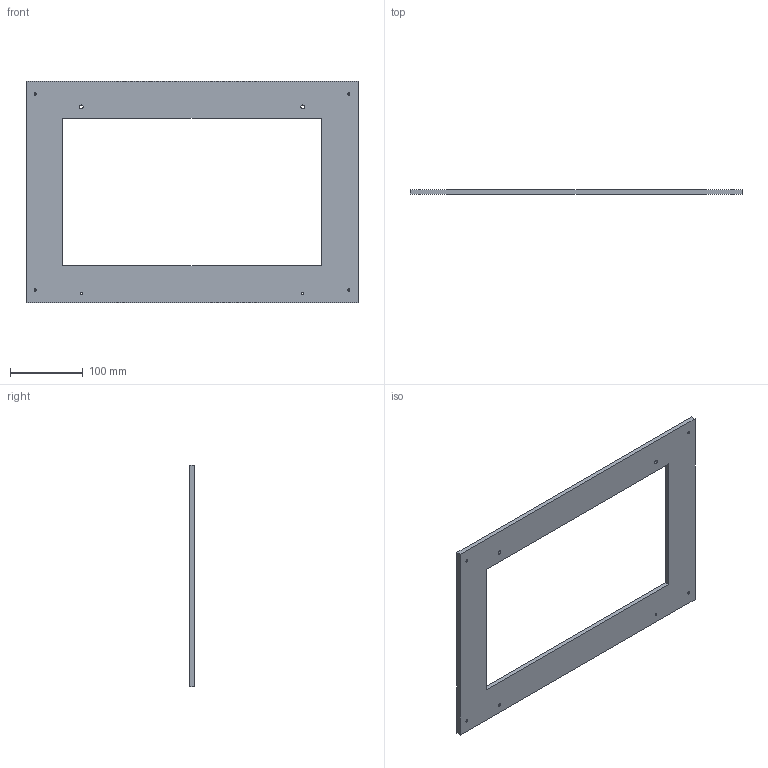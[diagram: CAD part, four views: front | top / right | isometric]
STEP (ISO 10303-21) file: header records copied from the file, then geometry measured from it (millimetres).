
FILE_DESCRIPTION(/* description */ ('STEP AP242','CAx-IF Rec.Pracs.---Representation and Presentation of Product Manufacturing Information (PMI)---4.0---2014-10-13','CAx-IF Rec.Pracs.---3D Tessellated Geometry---0.4---2014-09-14','2;1'),/* implementation_level */ '2;1');
FILE_NAME(/* name */ '67648064e55b8a4a1098b9a5',/* time_stamp */ '2024-12-19T20:21:56Z',/* author */ (''),/* organization */ (''),/* preprocessor_version */ 'ST-DEVELOPER v20',/* originating_system */ 'ONSHAPE BY PTC INC, 1.191',/* authorisation */ ' ');
FILE_SCHEMA (('AP242_MANAGED_MODEL_BASED_3D_ENGINEERING_MIM_LF { 1 0 10303 442 1 1 4 }'));
Length unit declared in the file: metre
Products named in the file (1): Part 1
Bounding box: 457.2 x 6.35 x 304.8 mm (x, y, z)
Volume: 425481.5 mm3; surface area: 151378.1 mm2
Topology: 1 solids, 1 shells, 18 faces, 54 edges, 38 vertices
Faces by surface type: plane 10, cylinder 8
Full cylindrical faces by diameter (mm): 3.226 x6, 5.21 x2
Entity records: 586 total; most frequent: DIRECTION 94, CARTESIAN_POINT 91, ORIENTED_EDGE 80, EDGE_LOOP 44, FACE_BOUND 44, EDGE_CURVE 40, AXIS2_PLACEMENT_3D 35, VERTEX_POINT 32
